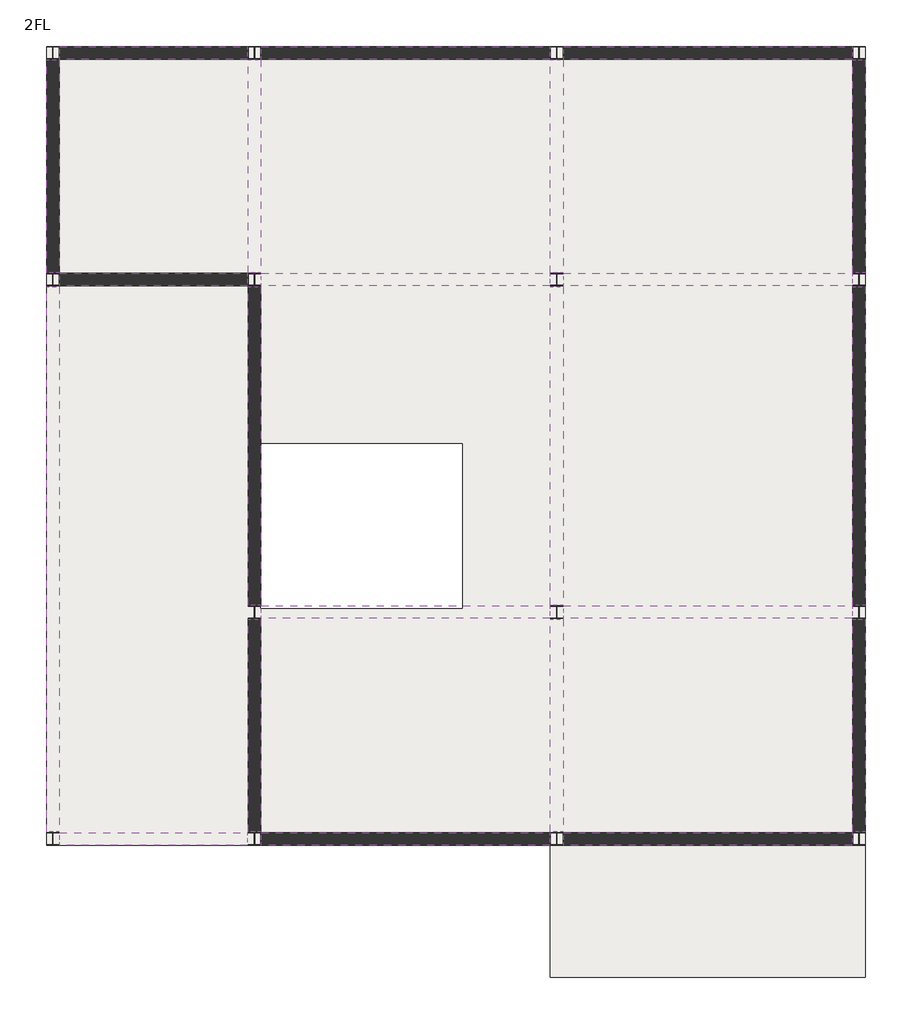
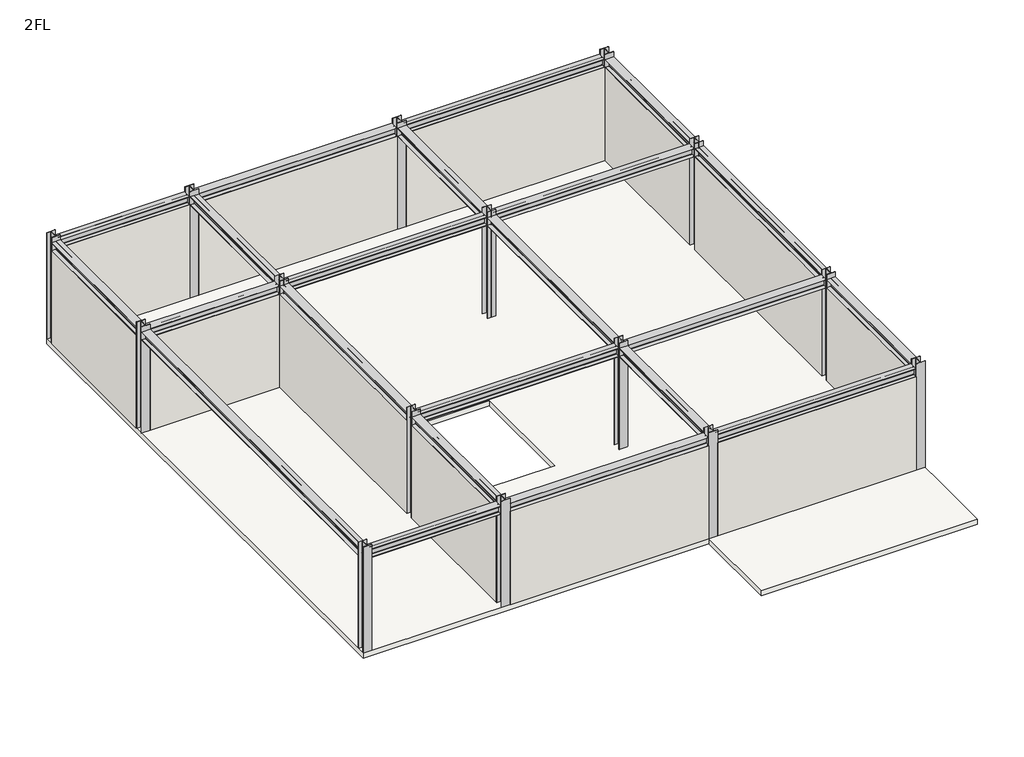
# One storey: 22 beams, 15 columns, 12 walls, 1 slab.
"""IFC4 building model written with IfcOpenShell, lengths in millimetres."""

from ifc_helpers import new_model, si_unit, frame, origin, place, context, project, spatial, polyline, outline, extrude, transform, mapped, element, save
from components import h250x250_c2469310, h250x250_0ab37fdc, h250x250_4f0f0427, h250x250_d6619e70, h250x250_42108681, h250x250_75dbfd1a

model = new_model("IFC4")

# Units and contexts
model_context = context("Model", 3, world=origin())
ifc_project = project(units=[si_unit("LENGTHUNIT", "METRE", prefix="MILLI")], contexts=[model_context])

# Site, building, storey
site = spatial("IfcSite", under=ifc_project)
building = spatial("IfcBuilding", under=site)
storey = spatial("IfcBuildingStorey", under=building, Name="2FL", Elevation=3450.0)

# Beams
placement = place(None, origin())
h250x250_shape = h250x250_c2469310(model_context)
element("IfcBeam", 1, ObjectType="H型鋼樑 : H250x250", at=placement, inside=storey, context=model_context, shape_type="MappedRepresentation", body=[
    mapped(h250x250_shape, transform((-74506.569844, 11233.032646, 6550.0), x_axis=(-1.0, 0.0, 0.0), y_axis=(0.0, -1.0, 0.0), z_axis=(0.0, 0.0, 1.0))),
])
element("IfcBeam", 2, ObjectType="H型鋼樑 : H250x250", at=placement, inside=storey, context=model_context, shape_type="MappedRepresentation", body=[
    mapped(h250x250_shape, transform((-74506.569844, 6733.032646, 6550.0), x_axis=(-1.0, 0.0, 0.0), y_axis=(0.0, -1.0, 0.0), z_axis=(0.0, 0.0, 1.0))),
])
element("IfcBeam", 3, ObjectType="H型鋼樑 : H250x250", at=placement, inside=storey, context=model_context, shape_type="MappedRepresentation", body=[
    mapped(h250x250_shape, transform((-74506.569844, -4366.967354, 6550.0), x_axis=(-1.0, 0.0, 0.0), y_axis=(0.0, -1.0, 0.0), z_axis=(0.0, 0.0, 1.0))),
])
h250x250_2_shape = h250x250_0ab37fdc(model_context)
element("IfcBeam", 4, ObjectType="H型鋼樑 : H250x250", at=placement, inside=storey, context=model_context, shape_type="MappedRepresentation", body=[
    mapped(h250x250_2_shape, transform((-63506.569844, 11233.032646, 6550.0), x_axis=(-1.0, 0.0, 0.0), y_axis=(0.0, -1.0, 0.0), z_axis=(0.0, 0.0, 1.0))),
])
element("IfcBeam", 5, ObjectType="H型鋼樑 : H250x250", at=placement, inside=storey, context=model_context, shape_type="MappedRepresentation", body=[
    mapped(h250x250_2_shape, transform((-69506.569844, 11233.032646, 6550.0), x_axis=(-1.0, 0.0, 0.0), y_axis=(0.0, -1.0, 0.0), z_axis=(0.0, 0.0, 1.0))),
])
element("IfcBeam", 6, ObjectType="H型鋼樑 : H250x250", at=placement, inside=storey, context=model_context, shape_type="MappedRepresentation", body=[
    mapped(h250x250_2_shape, transform((-63506.569844, 6733.032646, 6550.0), x_axis=(-1.0, 0.0, 0.0), y_axis=(0.0, -1.0, 0.0), z_axis=(0.0, 0.0, 1.0))),
])
element("IfcBeam", 7, ObjectType="H型鋼樑 : H250x250", at=placement, inside=storey, context=model_context, shape_type="MappedRepresentation", body=[
    mapped(h250x250_2_shape, transform((-69506.569844, 6733.032646, 6550.0), x_axis=(-1.0, 0.0, 0.0), y_axis=(0.0, -1.0, 0.0), z_axis=(0.0, 0.0, 1.0))),
])
element("IfcBeam", 8, ObjectType="H型鋼樑 : H250x250", at=placement, inside=storey, context=model_context, shape_type="MappedRepresentation", body=[
    mapped(h250x250_2_shape, transform((-63506.569844, 133.032646, 6550.0), x_axis=(-1.0, 0.0, 0.0), y_axis=(0.0, -1.0, 0.0), z_axis=(0.0, 0.0, 1.0))),
])
element("IfcBeam", 9, ObjectType="H型鋼樑 : H250x250", at=placement, inside=storey, context=model_context, shape_type="MappedRepresentation", body=[
    mapped(h250x250_2_shape, transform((-69506.569844, 133.032646, 6550.0), x_axis=(-1.0, 0.0, 0.0), y_axis=(0.0, -1.0, 0.0), z_axis=(0.0, 0.0, 1.0))),
])
element("IfcBeam", 10, ObjectType="H型鋼樑 : H250x250", at=placement, inside=storey, context=model_context, shape_type="MappedRepresentation", body=[
    mapped(h250x250_2_shape, transform((-63506.569844, -4366.967354, 6550.0), x_axis=(-1.0, 0.0, 0.0), y_axis=(0.0, -1.0, 0.0), z_axis=(0.0, 0.0, 1.0))),
])
element("IfcBeam", 11, ObjectType="H型鋼樑 : H250x250", at=placement, inside=storey, context=model_context, shape_type="MappedRepresentation", body=[
    mapped(h250x250_2_shape, transform((-69506.569844, -4366.967354, 6550.0), x_axis=(-1.0, 0.0, 0.0), y_axis=(0.0, -1.0, 0.0), z_axis=(0.0, 0.0, 1.0))),
])
h250x250_3_shape = h250x250_4f0f0427(model_context)
element("IfcBeam", 12, ObjectType="H型鋼樑 : H250x250", at=placement, inside=storey, context=model_context, shape_type="MappedRepresentation", body=[
    mapped(h250x250_3_shape, transform((-76506.569844, 1183.032646, 6550.0), x_axis=(0.0, 1.0, 0.0), y_axis=(-1.0, 0.0, 0.0), z_axis=(0.0, 0.0, 1.0))),
])
h250x250_4_shape = h250x250_d6619e70(model_context)
element("IfcBeam", 13, ObjectType="H型鋼樑 : H250x250", at=placement, inside=storey, context=model_context, shape_type="MappedRepresentation", body=[
    mapped(h250x250_4_shape, transform((-76506.569844, 8983.032646, 6550.0), x_axis=(0.0, 1.0, 0.0), y_axis=(-1.0, 0.0, 0.0), z_axis=(0.0, 0.0, 1.0))),
])
element("IfcBeam", 14, ObjectType="H型鋼樑 : H250x250", at=placement, inside=storey, context=model_context, shape_type="MappedRepresentation", body=[
    mapped(h250x250_4_shape, transform((-72506.569844, -2116.967354, 6550.0), x_axis=(0.0, 1.0, 0.0), y_axis=(-1.0, 0.0, 0.0), z_axis=(0.0, 0.0, 1.0))),
])
element("IfcBeam", 15, ObjectType="H型鋼樑 : H250x250", at=placement, inside=storey, context=model_context, shape_type="MappedRepresentation", body=[
    mapped(h250x250_4_shape, transform((-72506.569844, 8983.032646, 6550.0), x_axis=(0.0, 1.0, 0.0), y_axis=(-1.0, 0.0, 0.0), z_axis=(0.0, 0.0, 1.0))),
])
element("IfcBeam", 16, ObjectType="H型鋼樑 : H250x250", at=placement, inside=storey, context=model_context, shape_type="MappedRepresentation", body=[
    mapped(h250x250_4_shape, transform((-66506.569844, -2116.967354, 6550.0), x_axis=(0.0, 1.0, 0.0), y_axis=(-1.0, 0.0, 0.0), z_axis=(0.0, 0.0, 1.0))),
])
element("IfcBeam", 17, ObjectType="H型鋼樑 : H250x250", at=placement, inside=storey, context=model_context, shape_type="MappedRepresentation", body=[
    mapped(h250x250_4_shape, transform((-66506.569844, 8983.032646, 6550.0), x_axis=(0.0, 1.0, 0.0), y_axis=(-1.0, 0.0, 0.0), z_axis=(0.0, 0.0, 1.0))),
])
element("IfcBeam", 18, ObjectType="H型鋼樑 : H250x250", at=placement, inside=storey, context=model_context, shape_type="MappedRepresentation", body=[
    mapped(h250x250_4_shape, transform((-60506.569844, -2116.967354, 6550.0), x_axis=(0.0, 1.0, 0.0), y_axis=(-1.0, 0.0, 0.0), z_axis=(0.0, 0.0, 1.0))),
])
element("IfcBeam", 19, ObjectType="H型鋼樑 : H250x250", at=placement, inside=storey, context=model_context, shape_type="MappedRepresentation", body=[
    mapped(h250x250_4_shape, transform((-60506.569844, 8983.032646, 6550.0), x_axis=(0.0, 1.0, 0.0), y_axis=(-1.0, 0.0, 0.0), z_axis=(0.0, 0.0, 1.0))),
])
h250x250_5_shape = h250x250_42108681(model_context)
element("IfcBeam", 20, ObjectType="H型鋼樑 : H250x250", at=placement, inside=storey, context=model_context, shape_type="MappedRepresentation", body=[
    mapped(h250x250_5_shape, transform((-72506.569844, 3433.032646, 6550.0), x_axis=(0.0, 1.0, 0.0), y_axis=(-1.0, 0.0, 0.0), z_axis=(0.0, 0.0, 1.0))),
])
element("IfcBeam", 21, ObjectType="H型鋼樑 : H250x250", at=placement, inside=storey, context=model_context, shape_type="MappedRepresentation", body=[
    mapped(h250x250_5_shape, transform((-66506.569844, 3433.032646, 6550.0), x_axis=(0.0, 1.0, 0.0), y_axis=(-1.0, 0.0, 0.0), z_axis=(0.0, 0.0, 1.0))),
])
element("IfcBeam", 22, ObjectType="H型鋼樑 : H250x250", at=placement, inside=storey, context=model_context, shape_type="MappedRepresentation", body=[
    mapped(h250x250_5_shape, transform((-60506.569844, 3433.032646, 6550.0), x_axis=(0.0, 1.0, 0.0), y_axis=(-1.0, 0.0, 0.0), z_axis=(0.0, 0.0, 1.0))),
])

# Columns
h250x250_6_shape = h250x250_75dbfd1a(model_context)
element("IfcColumn", 23, ObjectType="H型鋼柱 : H250x250", at=placement, inside=storey, context=model_context, shape_type="MappedRepresentation", body=[
    mapped(h250x250_6_shape, transform((-76506.569844, 11233.032646, 0.0), x_axis=(-1.0, 0.0, 0.0), y_axis=(0.0, -1.0, 0.0), z_axis=(0.0, 0.0, 1.0))),
])
element("IfcColumn", 24, ObjectType="H型鋼柱 : H250x250", at=placement, inside=storey, context=model_context, shape_type="MappedRepresentation", body=[
    mapped(h250x250_6_shape, transform((-72506.569844, 11233.032646, 0.0), x_axis=(-1.0, 0.0, 0.0), y_axis=(0.0, -1.0, 0.0), z_axis=(0.0, 0.0, 1.0))),
])
element("IfcColumn", 25, ObjectType="H型鋼柱 : H250x250", at=placement, inside=storey, context=model_context, shape_type="MappedRepresentation", body=[
    mapped(h250x250_6_shape, transform((-66506.569844, 11233.032646, 0.0), x_axis=(-1.0, 0.0, 0.0), y_axis=(0.0, -1.0, 0.0), z_axis=(0.0, 0.0, 1.0))),
])
element("IfcColumn", 26, ObjectType="H型鋼柱 : H250x250", at=placement, inside=storey, context=model_context, shape_type="MappedRepresentation", body=[
    mapped(h250x250_6_shape, transform((-60506.569844, 11233.032646, 0.0), x_axis=(-1.0, 0.0, 0.0), y_axis=(0.0, -1.0, 0.0), z_axis=(0.0, 0.0, 1.0))),
])
element("IfcColumn", 27, ObjectType="H型鋼柱 : H250x250", at=placement, inside=storey, context=model_context, shape_type="MappedRepresentation", body=[
    mapped(h250x250_6_shape, transform((-76506.569844, 6733.032646, 0.0), x_axis=(-1.0, 0.0, 0.0), y_axis=(0.0, -1.0, 0.0), z_axis=(0.0, 0.0, 1.0))),
])
element("IfcColumn", 28, ObjectType="H型鋼柱 : H250x250", at=placement, inside=storey, context=model_context, shape_type="MappedRepresentation", body=[
    mapped(h250x250_6_shape, transform((-72506.569844, 6733.032646, 0.0), x_axis=(-1.0, 0.0, 0.0), y_axis=(0.0, -1.0, 0.0), z_axis=(0.0, 0.0, 1.0))),
])
element("IfcColumn", 29, ObjectType="H型鋼柱 : H250x250", at=placement, inside=storey, context=model_context, shape_type="MappedRepresentation", body=[
    mapped(h250x250_6_shape, transform((-66506.569844, 6733.032646, 0.0), x_axis=(-1.0, 0.0, 0.0), y_axis=(0.0, -1.0, 0.0), z_axis=(0.0, 0.0, 1.0))),
])
element("IfcColumn", 30, ObjectType="H型鋼柱 : H250x250", at=placement, inside=storey, context=model_context, shape_type="MappedRepresentation", body=[
    mapped(h250x250_6_shape, transform((-60506.569844, 6733.032646, 0.0), x_axis=(-1.0, 0.0, 0.0), y_axis=(0.0, -1.0, 0.0), z_axis=(0.0, 0.0, 1.0))),
])
element("IfcColumn", 31, ObjectType="H型鋼柱 : H250x250", at=placement, inside=storey, context=model_context, shape_type="MappedRepresentation", body=[
    mapped(h250x250_6_shape, transform((-72506.569844, 133.032646, 0.0), x_axis=(-1.0, 0.0, 0.0), y_axis=(0.0, -1.0, 0.0), z_axis=(0.0, 0.0, 1.0))),
])
element("IfcColumn", 32, ObjectType="H型鋼柱 : H250x250", at=placement, inside=storey, context=model_context, shape_type="MappedRepresentation", body=[
    mapped(h250x250_6_shape, transform((-66506.569844, 133.032646, 0.0), x_axis=(-1.0, 0.0, 0.0), y_axis=(0.0, -1.0, 0.0), z_axis=(0.0, 0.0, 1.0))),
])
element("IfcColumn", 33, ObjectType="H型鋼柱 : H250x250", at=placement, inside=storey, context=model_context, shape_type="MappedRepresentation", body=[
    mapped(h250x250_6_shape, transform((-60506.569844, 133.032646, 0.0), x_axis=(-1.0, 0.0, 0.0), y_axis=(0.0, -1.0, 0.0), z_axis=(0.0, 0.0, 1.0))),
])
element("IfcColumn", 34, ObjectType="H型鋼柱 : H250x250", at=placement, inside=storey, context=model_context, shape_type="MappedRepresentation", body=[
    mapped(h250x250_6_shape, transform((-76506.569844, -4366.967354, 0.0), x_axis=(-1.0, 0.0, 0.0), y_axis=(0.0, -1.0, 0.0), z_axis=(0.0, 0.0, 1.0))),
])
element("IfcColumn", 35, ObjectType="H型鋼柱 : H250x250", at=placement, inside=storey, context=model_context, shape_type="MappedRepresentation", body=[
    mapped(h250x250_6_shape, transform((-72506.569844, -4366.967354, 0.0), x_axis=(-1.0, 0.0, 0.0), y_axis=(0.0, -1.0, 0.0), z_axis=(0.0, 0.0, 1.0))),
])
element("IfcColumn", 36, ObjectType="H型鋼柱 : H250x250", at=placement, inside=storey, context=model_context, shape_type="MappedRepresentation", body=[
    mapped(h250x250_6_shape, transform((-66506.569844, -4366.967354, 0.0), x_axis=(-1.0, 0.0, 0.0), y_axis=(0.0, -1.0, 0.0), z_axis=(0.0, 0.0, 1.0))),
])
element("IfcColumn", 37, ObjectType="H型鋼柱 : H250x250", at=placement, inside=storey, context=model_context, shape_type="MappedRepresentation", body=[
    mapped(h250x250_6_shape, transform((-60506.569844, -4366.967354, 0.0), x_axis=(-1.0, 0.0, 0.0), y_axis=(0.0, -1.0, 0.0), z_axis=(0.0, 0.0, 1.0))),
])

# Slab
element("IfcSlab", 38, ObjectType="一般 - 15cm", at=placement, inside=storey, context=model_context, shape_type="SweptSolid", body=[
    extrude(outline(polyline([(-60381.569844, 11358.032646), (-60381.569844, -7116.967354), (-66631.569844, -7116.967354), (-66631.569844, -4491.967354), (-76631.569844, -4491.967354), (-76631.569844, 11358.032646), (-60381.569844, 11358.032646)]), holes=[polyline([(-68380.569844, 3474.0864879), (-72381.569844, 3474.0864879), (-72381.569844, 208.032646), (-68380.569844, 208.032646), (-68380.569844, 3474.0864879)])]), frame((0.0, 0.0, 3300.0), z_axis=(0.0, 0.0, 1.0), x_axis=(1.0, 0.0, 0.0)), (0.0, 0.0, 1.0), 150.0),
])

# Walls
element("IfcWall", 39, ObjectType="2FL外牆 25cm", at=placement, inside=storey, context=model_context, shape_type="SweptSolid", body=[
    extrude(outline(polyline([(-72631.569844, 11108.032646), (-76381.569844, 11108.032646), (-76381.569844, 11358.032646), (-72631.569844, 11358.032646), (-72631.569844, 11108.032646)])), frame((0.0, 0.0, 3450.0), z_axis=(0.0, 0.0, 1.0), x_axis=(1.0, 0.0, 0.0)), (0.0, 0.0, 1.0), 2850.0),
])
element("IfcWall", 40, ObjectType="2FL外牆 25cm", at=placement, inside=storey, context=model_context, shape_type="SweptSolid", body=[
    extrude(outline(polyline([(-66631.569844, 11108.032646), (-72381.569844, 11108.032646), (-72381.569844, 11358.032646), (-66631.569844, 11358.032646), (-66631.569844, 11108.032646)])), frame((0.0, 0.0, 3450.0), z_axis=(0.0, 0.0, 1.0), x_axis=(1.0, 0.0, 0.0)), (0.0, 0.0, 1.0), 2850.0),
])
element("IfcWall", 41, ObjectType="2FL外牆 25cm", at=placement, inside=storey, context=model_context, shape_type="SweptSolid", body=[
    extrude(outline(polyline([(-60631.569844, 11108.032646), (-66381.569844, 11108.032646), (-66381.569844, 11358.032646), (-60631.569844, 11358.032646), (-60631.569844, 11108.032646)])), frame((0.0, 0.0, 3450.0), z_axis=(0.0, 0.0, 1.0), x_axis=(1.0, 0.0, 0.0)), (0.0, 0.0, 1.0), 2850.0),
])
element("IfcWall", 42, ObjectType="2FL外牆 25cm", at=placement, inside=storey, context=model_context, shape_type="SweptSolid", body=[
    extrude(outline(polyline([(-76631.569844, 6858.032646), (-76631.569844, 11108.032646), (-76381.569844, 11108.032646), (-76381.569844, 6858.032646), (-76631.569844, 6858.032646)])), frame((0.0, 0.0, 3450.0), z_axis=(0.0, 0.0, 1.0), x_axis=(1.0, 0.0, 0.0)), (0.0, 0.0, 1.0), 2850.0),
])
element("IfcWall", 43, ObjectType="2FL外牆 25cm", at=placement, inside=storey, context=model_context, shape_type="SweptSolid", body=[
    extrude(outline(polyline([(-72631.569844, 6608.032646), (-76381.569844, 6608.032646), (-76381.569844, 6858.032646), (-72631.569844, 6858.032646), (-72631.569844, 6608.032646)])), frame((0.0, 0.0, 3450.0), z_axis=(0.0, 0.0, 1.0), x_axis=(1.0, 0.0, 0.0)), (0.0, 0.0, 1.0), 2850.0),
])
element("IfcWall", 44, ObjectType="2FL外牆 25cm", at=placement, inside=storey, context=model_context, shape_type="SweptSolid", body=[
    extrude(outline(polyline([(-72631.569844, 258.032646), (-72631.569844, 6608.032646), (-72381.569844, 6608.032646), (-72381.569844, 258.032646), (-72631.569844, 258.032646)])), frame((0.0, 0.0, 3450.0), z_axis=(0.0, 0.0, 1.0), x_axis=(1.0, 0.0, 0.0)), (0.0, 0.0, 1.0), 2850.0),
])
element("IfcWall", 45, ObjectType="2FL外牆 25cm", at=placement, inside=storey, context=model_context, shape_type="SweptSolid", body=[
    extrude(outline(polyline([(-72631.569844, -4241.967354), (-72631.569844, 8.032646), (-72381.569844, 8.032646), (-72381.569844, -4241.967354), (-72631.569844, -4241.967354)])), frame((0.0, 0.0, 3450.0), z_axis=(0.0, 0.0, 1.0), x_axis=(1.0, 0.0, 0.0)), (0.0, 0.0, 1.0), 2850.0),
])
element("IfcWall", 46, ObjectType="2FL外牆 25cm", at=placement, inside=storey, context=model_context, shape_type="SweptSolid", body=[
    extrude(outline(polyline([(-66631.569844, -4491.967354), (-72381.569844, -4491.967354), (-72381.569844, -4241.967354), (-66631.569844, -4241.967354), (-66631.569844, -4491.967354)])), frame((0.0, 0.0, 3450.0), z_axis=(0.0, 0.0, 1.0), x_axis=(1.0, 0.0, 0.0)), (0.0, 0.0, 1.0), 2850.0),
])
element("IfcWall", 47, ObjectType="2FL外牆 25cm", at=placement, inside=storey, context=model_context, shape_type="SweptSolid", body=[
    extrude(outline(polyline([(-60631.569844, -4491.967354), (-66381.569844, -4491.967354), (-66381.569844, -4241.967354), (-60631.569844, -4241.967354), (-60631.569844, -4491.967354)])), frame((0.0, 0.0, 3450.0), z_axis=(0.0, 0.0, 1.0), x_axis=(1.0, 0.0, 0.0)), (0.0, 0.0, 1.0), 2850.0),
])
element("IfcWall", 48, ObjectType="2FL外牆 25cm", at=placement, inside=storey, context=model_context, shape_type="SweptSolid", body=[
    extrude(outline(polyline([(-60381.569844, 8.032646), (-60381.569844, -4241.967354), (-60631.569844, -4241.967354), (-60631.569844, 8.032646), (-60381.569844, 8.032646)])), frame((0.0, 0.0, 3450.0), z_axis=(0.0, 0.0, 1.0), x_axis=(1.0, 0.0, 0.0)), (0.0, 0.0, 1.0), 2850.0),
])
element("IfcWall", 49, ObjectType="2FL外牆 25cm", at=placement, inside=storey, context=model_context, shape_type="SweptSolid", body=[
    extrude(outline(polyline([(-60381.569844, 6608.032646), (-60381.569844, 258.032646), (-60631.569844, 258.032646), (-60631.569844, 6608.032646), (-60381.569844, 6608.032646)])), frame((0.0, 0.0, 3450.0), z_axis=(0.0, 0.0, 1.0), x_axis=(1.0, 0.0, 0.0)), (0.0, 0.0, 1.0), 2850.0),
])
element("IfcWall", 50, ObjectType="2FL外牆 25cm", at=placement, inside=storey, context=model_context, shape_type="SweptSolid", body=[
    extrude(outline(polyline([(-60381.569844, 11108.032646), (-60381.569844, 6858.032646), (-60631.569844, 6858.032646), (-60631.569844, 11108.032646), (-60381.569844, 11108.032646)])), frame((0.0, 0.0, 3450.0), z_axis=(0.0, 0.0, 1.0), x_axis=(1.0, 0.0, 0.0)), (0.0, 0.0, 1.0), 2850.0),
])

save(model, "model.ifc")
